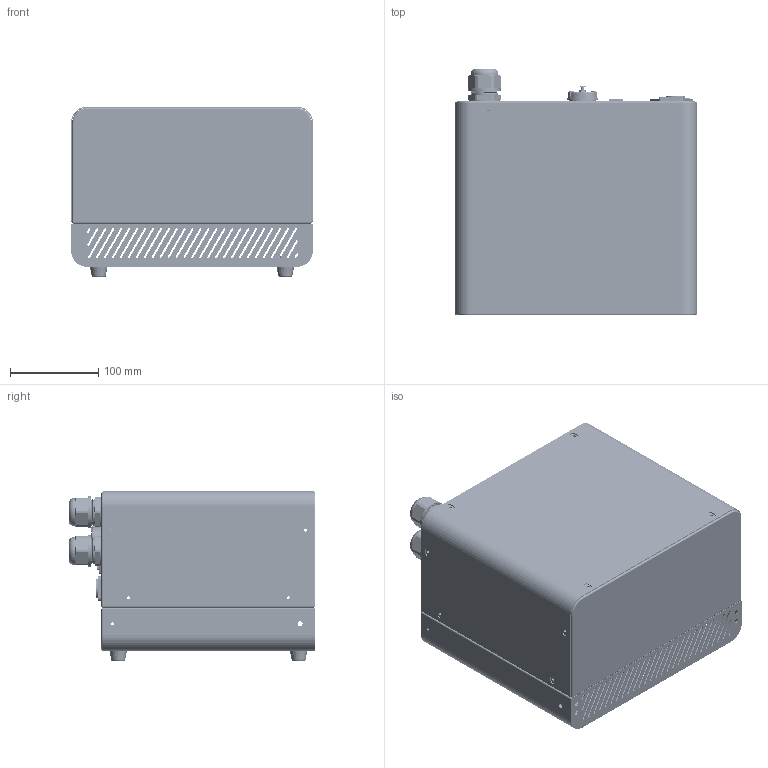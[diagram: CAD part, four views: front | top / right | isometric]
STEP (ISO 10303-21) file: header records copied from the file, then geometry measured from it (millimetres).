
FILE_DESCRIPTION(/* description */ (''),/* implementation_level */ '2;1');
FILE_NAME(/* name */ 'AS50.stp',/* time_stamp */ '2026-07-21T13:54:20+08:00',/* author */ (''),/* organization */ (''),/* preprocessor_version */ 'ST-DEVELOPER v16.7',/* originating_system */ 'SIEMENS PLM Software NX 12.0',/* authorisation */ '');
FILE_SCHEMA (('AUTOMOTIVE_DESIGN { 1 0 10303 214 3 1 1 1 }'));
Products named in the file (1): AS50
Bounding box: 274 x 279.68 x 193.6 mm (x, y, z)
Volume: 579556 mm3; surface area: 810829.6 mm2
Topology: 155 solids, 155 shells, 9966 faces, 27643 edges, 18261 vertices
Faces by surface type: plane 6426, cylinder 2461, extrusion 519, bspline 272, torus 148, cone 128, sphere 12
Full cylindrical faces by diameter (mm): 2.459 x4, 3 x12, 3.242 x16, 3.3 x2, 3.4 x6, 3.5 x4, 3.6 x2, 4 x22, 4.2 x4, 4.475 x2, 5 x41, 5.5 x6, 5.9 x2, 6 x12, 6.3 x4, 6.32 x2, 7.12 x2, 7.9 x14, 12.7 x3, 17.3 x1, 22 x1, 23.8 x1, 24.5 x1, 25.5 x2, 31 x1
Entity records: 374811 total; most frequent: CARTESIAN_POINT 86791, ORIENTED_EDGE 54686, DIRECTION 49341, EDGE_CURVE 27343, VECTOR 20123, LINE 19604, VERTEX_POINT 18209, AXIS2_PLACEMENT_3D 14609
